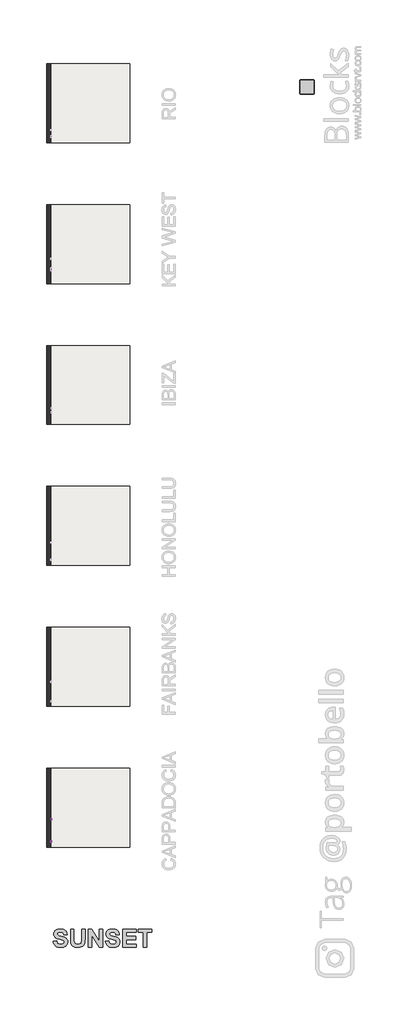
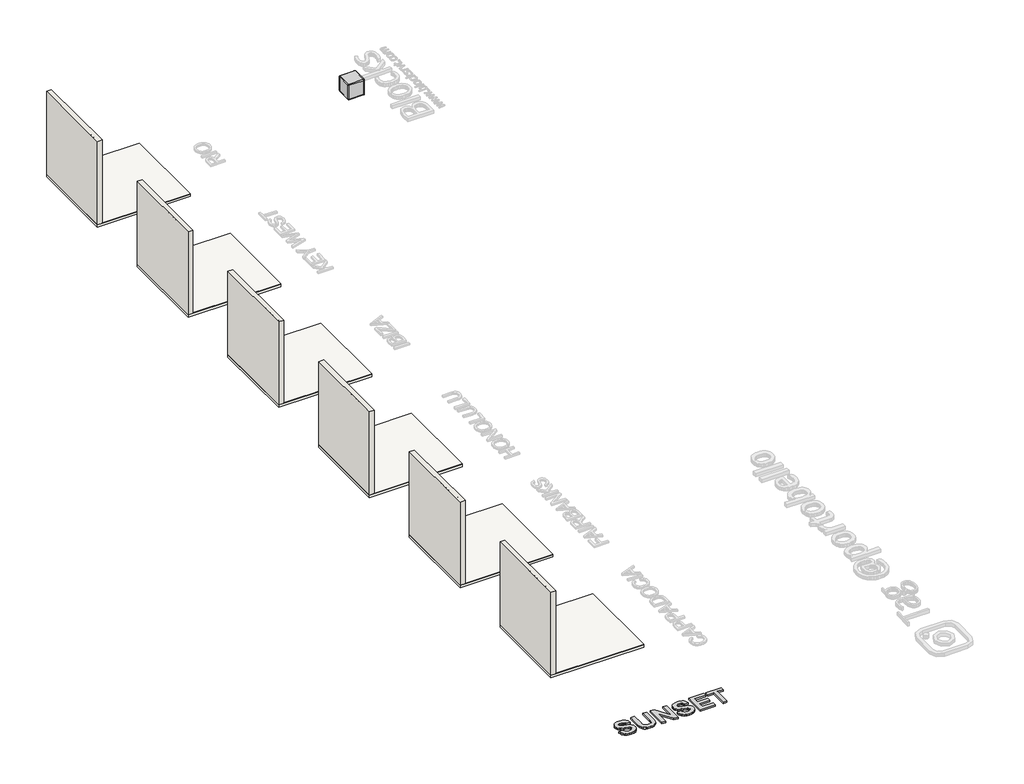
# One storey, part 1 of 7: 12 slabs, 6 walls, 3 proxies, 1 furniture element.
"""IFC4 building model written with IfcOpenShell, lengths in millimetres."""

from ifc_helpers import new_model, si_unit, frame, origin, origin_with_axes, place, context, project, spatial, polyline, outline, extrude, transform, mapped, element, save
from components import branco_22256ad2

model = new_model("IFC4")

# Units and contexts
model_context = context("Model", 3, world=origin())
ifc_project = project(units=[si_unit("LENGTHUNIT", "METRE", prefix="MILLI")], contexts=[model_context])

# Site, building, storey
site = spatial("IfcSite", under=ifc_project)
building = spatial("IfcBuilding", under=site)
storey = spatial("IfcBuildingStorey", under=building, Name="PORTOBELLO - SHOWROOM", Elevation=0.0)

# Proxies
placement = place(None, origin())
element("IfcBuildingElementProxy", 1, Name="10mm Arial", ObjectType="10mm Arial", at=placement, inside=storey, context=model_context, shape_type="SweptSolid", body=[
    extrude(outline(polyline([(-9168.2571098, 2513.7539171), (-9155.700071, 2510.5165555), (-9161.4942124, 2495.8840492), (-9170.5870291, 2485.1940115), (-9182.5309312, 2478.6549091), (-9196.878329, 2476.4752083), (-9211.4433903, 2478.1245459), (-9223.0102134, 2483.0725587), (-9231.8761695, 2491.1475685), (-9238.3386298, 2502.177897), (-9243.5993424, 2529.0332826), (-9242.112486, 2543.6811174), (-9237.6519168, 2556.3301267), (-9230.4506267, 2566.5787059), (-9220.7416077, 2574.0252506), (-9209.2269013, 2578.5593962), (-9196.6085488, 2580.0707781), (-9182.8405652, 2578.1148722), (-9171.4576831, 2572.2471543), (-9162.8155219, 2562.8293753), (-9157.2697008, 2550.2232856), (-9169.8267396, 2547.2311787), (-9180.1274355, 2562.6699597), (-9197.0990582, 2567.5137393), (-9216.7439567, 2562.1426622), (-9227.8417302, 2547.721688), (-9231.0423036, 2529.0578081), (-9227.253119, 2507.4263468), (-9215.4563697, 2493.6062465), (-9198.1291278, 2489.032247), (-9187.6475566, 2490.5896141), (-9178.9134249, 2495.2617155), (-9172.3191401, 2502.9995001), (-9168.2571098, 2513.7539171)])), frame((45289.51561, 0.0, 0.0), z_axis=(1.0, 0.0, 0.0), x_axis=(0.0, 1.0, 0.0)), (0.0, 0.0, 1.0), 20.0),
    extrude(outline(polyline([(-9092.9148771, 2487.4626172), (-9105.0917712, 2478.9522804), (-9118.5439895, 2476.4752083), (-9129.0378234, 2477.9651303), (-9136.7786737, 2482.4348966), (-9141.5519426, 2489.2223194), (-9143.1430322, 2497.6652112), (-9140.7395365, 2507.598025), (-9134.4242289, 2514.8085122), (-9125.6318492, 2518.9287905), (-9114.7670677, 2520.8172514), (-9092.9884535, 2525.1337335), (-9092.9148771, 2527.9296366), (-9096.3729679, 2537.2002629), (-9110.2543818, 2540.8300319), (-9122.9585734, 2538.4142735), (-9129.0163636, 2529.842623), (-9141.5734024, 2531.4122529), (-9136.1410116, 2543.674986), (-9125.2026536, 2550.8609477), (-9108.6357011, 2553.3870707), (-9093.4176492, 2551.1552533), (-9084.8214732, 2545.5511842), (-9080.970975, 2537.0285847), (-9080.3578384, 2526.0411757), (-9080.3578384, 2510.4184537), (-9079.7201762, 2488.6030514), (-9077.2185787, 2478.0448381), (-9089.7756174, 2478.0448381), (-9092.9148771, 2487.4626172)]), holes=[polyline([(-9092.9148771, 2512.5766947), (-9113.1729123, 2508.7261965), (-9123.9763803, 2506.6905828), (-9128.8692108, 2503.3796448), (-9130.5859934, 2498.548128), (-9126.8458598, 2491.7545738), (-9115.8707136, 2489.032247), (-9103.1665221, 2492.0366167), (-9094.9750163, 2499.3084174), (-9092.9884535, 2509.0205021), (-9092.9148771, 2512.5766947)])]), frame((45289.51561, 0.0, 0.0), z_axis=(1.0, 0.0, 0.0), x_axis=(0.0, 1.0, 0.0)), (0.0, 0.0, 1.0), 20.0),
    extrude(outline(polyline([(-9063.0919101, 2449.7915009), (-9063.0919101, 2551.8174409), (-9050.5348713, 2551.8174409), (-9050.5348713, 2539.5056568), (-9041.8528562, 2549.9167172), (-9030.1296833, 2553.3870707), (-9014.2126556, 2548.5310284), (-9003.8138579, 2534.8458182), (-9000.3067162, 2515.4952252), (-9004.267579, 2495.1513509), (-9015.7700228, 2481.2944624), (-9031.6502622, 2476.4752083), (-9042.5763575, 2479.7003071), (-9050.5348713, 2487.8550246), (-9050.5348713, 2449.7915009), (-9063.0919101, 2449.7915009)]), holes=[polyline([(-9050.5348713, 2514.3425283), (-9049.1767736, 2503.0853392), (-9045.1024805, 2495.2126645), (-9039.0906756, 2490.5773514), (-9031.9200423, 2489.032247), (-9024.6329132, 2490.6325337), (-9018.467824, 2495.4333937), (-9014.2647723, 2503.5942427), (-9012.863755, 2515.274496), (-9014.2310497, 2526.4703714), (-9018.332934, 2534.4534107), (-9024.3355419, 2539.2358766), (-9031.4050075, 2540.8300319), (-9038.5020644, 2539.1347091), (-9044.7345985, 2534.0487405), (-9049.0848031, 2525.7315417), (-9050.5348713, 2514.3425283)])]), frame((45289.51561, 0.0, 0.0), z_axis=(1.0, 0.0, 0.0), x_axis=(0.0, 1.0, 0.0)), (0.0, 0.0, 1.0), 20.0),
    extrude(outline(polyline([(-8986.1800476, 2449.7915009), (-8986.1800476, 2551.8174409), (-8973.6230088, 2551.8174409), (-8973.6230088, 2539.5056568), (-8964.9409938, 2549.9167172), (-8953.2178208, 2553.3870707), (-8937.3007932, 2548.5310284), (-8926.9019954, 2534.8458182), (-8923.3948538, 2515.4952252), (-8927.3557166, 2495.1513509), (-8938.8581603, 2481.2944624), (-8954.7383998, 2476.4752083), (-8965.664495, 2479.7003071), (-8973.6230088, 2487.8550246), (-8973.6230088, 2449.7915009), (-8986.1800476, 2449.7915009)]), holes=[polyline([(-8973.6230088, 2514.3425283), (-8972.2649111, 2503.0853392), (-8968.190618, 2495.2126645), (-8962.1788131, 2490.5773514), (-8955.0081799, 2489.032247), (-8947.7210507, 2490.6325337), (-8941.5559616, 2495.4333937), (-8937.3529098, 2503.5942427), (-8935.9518925, 2515.274496), (-8937.3191873, 2526.4703714), (-8941.4210715, 2534.4534107), (-8947.4236794, 2539.2358766), (-8954.4931451, 2540.8300319), (-8961.5902019, 2539.1347091), (-8967.822736, 2534.0487405), (-8972.1729406, 2525.7315417), (-8973.6230088, 2514.3425283)])]), frame((45289.51561, 0.0, 0.0), z_axis=(1.0, 0.0, 0.0), x_axis=(0.0, 1.0, 0.0)), (0.0, 0.0, 1.0), 20.0),
    extrude(outline(polyline([(-8862.1792898, 2487.4626172), (-8874.3561838, 2478.9522804), (-8887.8084021, 2476.4752083), (-8898.302236, 2477.9651303), (-8906.0430863, 2482.4348966), (-8910.8163552, 2489.2223194), (-8912.4074448, 2497.6652112), (-8910.0039491, 2507.598025), (-8903.6886416, 2514.8085122), (-8894.8962619, 2518.9287905), (-8884.0314803, 2520.8172514), (-8862.2528662, 2525.1337335), (-8862.1792898, 2527.9296366), (-8865.6373805, 2537.2002629), (-8879.5187945, 2540.8300319), (-8892.222986, 2538.4142735), (-8898.2807762, 2529.842623), (-8910.837815, 2531.4122529), (-8905.4054242, 2543.674986), (-8894.4670662, 2550.8609477), (-8877.9001137, 2553.3870707), (-8862.6820618, 2551.1552533), (-8854.0858859, 2545.5511842), (-8850.2353877, 2537.0285847), (-8849.622251, 2526.0411757), (-8849.622251, 2510.4184537), (-8848.9845889, 2488.6030514), (-8846.4829913, 2478.0448381), (-8859.0400301, 2478.0448381), (-8862.1792898, 2487.4626172)]), holes=[polyline([(-8862.1792898, 2512.5766947), (-8882.437325, 2508.7261965), (-8893.2407929, 2506.6905828), (-8898.1336234, 2503.3796448), (-8899.8504061, 2498.548128), (-8896.1102725, 2491.7545738), (-8885.1351263, 2489.032247), (-8872.4309347, 2492.0366167), (-8864.2394289, 2499.3084174), (-8862.2528662, 2509.0205021), (-8862.1792898, 2512.5766947)])]), frame((45289.51561, 0.0, 0.0), z_axis=(1.0, 0.0, 0.0), x_axis=(0.0, 1.0, 0.0)), (0.0, 0.0, 1.0), 20.0),
    extrude(outline(polyline([(-8786.8370572, 2478.0448381), (-8786.8370572, 2489.8906383), (-8795.1450589, 2479.8290658), (-8806.6291085, 2476.4752083), (-8822.1782542, 2481.3312506), (-8833.1656631, 2494.8815707), (-8837.0652122, 2514.8575631), (-8833.4722314, 2534.8458182), (-8822.7055517, 2548.6046048), (-8806.6781594, 2553.3870707), (-8795.1021393, 2549.9657682), (-8786.8370572, 2541.0752866), (-8786.8370572, 2578.5011483), (-8774.2800184, 2578.5011483), (-8774.2800184, 2478.0448381), (-8786.8370572, 2478.0448381)]), holes=[polyline([(-8824.5081735, 2514.906614), (-8823.0918278, 2503.5482574), (-8818.8427907, 2495.4701819), (-8812.6685046, 2490.6417308), (-8805.4764116, 2489.032247), (-8798.2873843, 2490.5681544), (-8792.2694479, 2495.1758763), (-8788.1951549, 2502.9412521), (-8786.8370572, 2513.9501208), (-8788.2196803, 2525.9859934), (-8792.3675498, 2534.3307834), (-8798.5387703, 2539.2052198), (-8805.9914464, 2540.8300319), (-8813.2571158, 2539.2695991), (-8819.2106727, 2534.5883008), (-8823.1837983, 2526.5470135), (-8824.5081735, 2514.906614)])]), frame((45289.51561, 0.0, 0.0), z_axis=(1.0, 0.0, 0.0), x_axis=(0.0, 1.0, 0.0)), (0.0, 0.0, 1.0), 20.0),
    extrude(outline(polyline([(-8758.5837199, 2514.9311395), (-8755.8675245, 2532.718234), (-8747.7189383, 2545.2200904), (-8737.6512344, 2551.3453256), (-8725.5969677, 2553.3870707), (-8712.4053325, 2550.9008016), (-8701.868579, 2543.4419941), (-8694.9615945, 2531.5992596), (-8692.6592664, 2515.9612091), (-8696.7304938, 2493.6185092), (-8708.5885568, 2480.9756313), (-8725.5969677, 2476.4752083), (-8738.9480184, 2478.9522804), (-8749.4725092, 2486.3834967), (-8756.3059172, 2498.4745516), (-8758.5837199, 2514.9311395)]), holes=[polyline([(-8746.0266812, 2514.955665), (-8744.5735473, 2503.591177), (-8740.2141456, 2495.4947074), (-8733.6535834, 2490.6478621), (-8725.5969677, 2489.032247), (-8717.5771402, 2490.6570592), (-8711.0288407, 2495.5314956), (-8706.669439, 2503.7352641), (-8705.2163052, 2515.3480724), (-8706.6786361, 2526.3814666), (-8711.0656289, 2534.3675716), (-8717.6231254, 2539.2144169), (-8725.5969677, 2540.8300319), (-8733.6535834, 2539.2205482), (-8740.2141456, 2534.392097), (-8744.5735473, 2526.3140216), (-8746.0266812, 2514.955665)])]), frame((45289.51561, 0.0, 0.0), z_axis=(1.0, 0.0, 0.0), x_axis=(0.0, 1.0, 0.0)), (0.0, 0.0, 1.0), 20.0),
    extrude(outline(polyline([(-8631.4437024, 2504.7285455), (-8618.8866636, 2503.1589156), (-8622.3876739, 2491.9906314), (-8628.9666303, 2483.5508053), (-8638.0042646, 2478.2441075), (-8648.881309, 2476.4752083), (-8662.2384911, 2478.9430833), (-8672.683274, 2486.3467085), (-8679.4247116, 2498.3611213), (-8681.6718575, 2514.6613594), (-8677.833622, 2535.5202685), (-8666.1349745, 2548.9234358), (-8649.0529872, 2553.3870707), (-8638.4426573, 2551.8542291), (-8629.9599117, 2547.2557041), (-8623.8745303, 2539.8367506), (-8620.4562935, 2529.842623), (-8633.0133322, 2528.2729932), (-8638.8381305, 2537.6785095), (-8648.9548854, 2540.8300319), (-8657.069749, 2539.2787962), (-8663.5107496, 2534.625089), (-8667.7138014, 2526.6175242), (-8669.1148187, 2515.0047159), (-8667.7444583, 2503.2355577), (-8663.633377, 2495.2004018), (-8657.3088723, 2490.5742857), (-8649.2982419, 2489.032247), (-8637.4647044, 2492.8827452), (-8631.4437024, 2504.7285455)])), frame((45289.51561, 0.0, 0.0), z_axis=(1.0, 0.0, 0.0), x_axis=(0.0, 1.0, 0.0)), (0.0, 0.0, 1.0), 20.0),
    extrude(outline(polyline([(45309.51561, -8595.3422159), (45309.51561, -8607.8992547), (45289.51561, -8607.8992547), (45289.51561, -8595.3422159), (45309.51561, -8595.3422159)])), frame((0.0, 0.0, 2565.9441095), z_axis=(0.0, 0.0, 1.0), x_axis=(1.0, 0.0, 0.0)), (0.0, 0.0, 1.0), 12.5570388),
    extrude(outline(polyline([(45309.51561, -8595.3422159), (45309.51561, -8607.8992547), (45289.51561, -8607.8992547), (45289.51561, -8595.3422159), (45309.51561, -8595.3422159)])), frame((0.0, 0.0, 2478.0448381), z_axis=(0.0, 0.0, 1.0), x_axis=(1.0, 0.0, 0.0)), (0.0, 0.0, 1.0), 73.7726028),
    extrude(outline(polyline([(-8529.4177624, 2487.4626172), (-8541.5946564, 2478.9522804), (-8555.0468747, 2476.4752083), (-8565.5407086, 2477.9651303), (-8573.281559, 2482.4348966), (-8578.0548278, 2489.2223194), (-8579.6459175, 2497.6652112), (-8577.2424218, 2507.598025), (-8570.9271142, 2514.8085122), (-8562.1347345, 2518.9287905), (-8551.2699529, 2520.8172514), (-8529.4913388, 2525.1337335), (-8529.4177624, 2527.9296366), (-8532.8758531, 2537.2002629), (-8546.7572671, 2540.8300319), (-8559.4614587, 2538.4142735), (-8565.5192489, 2529.842623), (-8578.0762876, 2531.4122529), (-8572.6438968, 2543.674986), (-8561.7055388, 2550.8609477), (-8545.1385863, 2553.3870707), (-8529.9205345, 2551.1552533), (-8521.3243585, 2545.5511842), (-8517.4738603, 2537.0285847), (-8516.8607236, 2526.0411757), (-8516.8607236, 2510.4184537), (-8516.2230615, 2488.6030514), (-8513.7214639, 2478.0448381), (-8526.2785027, 2478.0448381), (-8529.4177624, 2487.4626172)]), holes=[polyline([(-8529.4177624, 2512.5766947), (-8549.6757976, 2508.7261965), (-8560.4792655, 2506.6905828), (-8565.3720961, 2503.3796448), (-8567.0888787, 2498.548128), (-8563.3487451, 2491.7545738), (-8552.3735989, 2489.032247), (-8539.6694073, 2492.0366167), (-8531.4779016, 2499.3084174), (-8529.4913388, 2509.0205021), (-8529.4177624, 2512.5766947)])]), frame((45289.51561, 0.0, 0.0), z_axis=(1.0, 0.0, 0.0), x_axis=(0.0, 1.0, 0.0)), (0.0, 0.0, 1.0), 20.0),
])
element("IfcBuildingElementProxy", 2, Name="10mm Arial Narrow", ObjectType="10mm Arial Narrow", at=placement, inside=storey, context=model_context, shape_type="SweptSolid", body=[
    extrude(outline(polyline([(-8466.7553937, 2478.0448381), (-8466.7553937, 2578.7634419), (-8435.458509, 2578.7634419), (-8419.1628075, 2576.8851211), (-8407.6898214, 2567.4046779), (-8403.400143, 2550.3855691), (-8405.1864514, 2538.3097436), (-8410.5453766, 2528.6833498), (-8420.2891654, 2522.3820914), (-8435.2300646, 2520.2816719), (-8457.0084321, 2520.2816719), (-8457.0084321, 2478.0448381), (-8466.7553937, 2478.0448381)]), holes=[polyline([(-8457.0084321, 2531.6531272), (-8434.0370771, 2531.6531272), (-8418.1728817, 2536.1839414), (-8413.1471046, 2549.8525322), (-8415.6219191, 2560.0183086), (-8421.5995479, 2565.8182584), (-8434.2655215, 2567.3919866), (-8457.0084321, 2567.3919866), (-8457.0084321, 2531.6531272)])]), frame((45289.51561, 0.0, 0.0), z_axis=(1.0, 0.0, 0.0), x_axis=(0.0, 1.0, 0.0)), (0.0, 0.0, 1.0), 20.0),
    extrude(outline(polyline([(-8395.2776749, 2514.5959443), (-8393.323206, 2531.1867199), (-8387.4597994, 2543.1388047), (-8378.6012327, 2550.3633593), (-8367.6612836, 2552.7715441), (-8356.848248, 2550.3633593), (-8347.9642986, 2543.1388047), (-8342.0247438, 2531.3770902), (-8340.0448922, 2515.3574257), (-8341.9898426, 2498.1955391), (-8347.8246936, 2486.0530839), (-8356.6737418, 2478.8285294), (-8367.6612836, 2476.4203445), (-8378.5219117, 2478.834875), (-8387.3963426, 2486.0784667), (-8393.3073418, 2498.0368971), (-8395.2776749, 2514.5959443)]), holes=[polyline([(-8385.5307133, 2514.621327), (-8384.2266764, 2502.0695756), (-8380.3145658, 2493.1983175), (-8374.4733691, 2487.925059), (-8367.3820737, 2486.1673061), (-8360.6620005, 2487.9409232), (-8354.9699272, 2493.2617743), (-8351.0863722, 2502.1488966), (-8349.7918539, 2514.621327), (-8351.0958907, 2527.1350043), (-8355.0080013, 2535.9935711), (-8360.8491981, 2541.2668296), (-8367.9404934, 2543.0245825), (-8374.7081592, 2541.2573111), (-8380.3907139, 2535.955497), (-8384.2457134, 2527.0874118), (-8385.5307133, 2514.621327)])]), frame((45289.51561, 0.0, 0.0), z_axis=(1.0, 0.0, 0.0), x_axis=(0.0, 1.0, 0.0)), (0.0, 0.0, 1.0), 20.0),
    extrude(outline(polyline([(-8268.5671734, 2486.1673061), (-8266.9426798, 2476.4203445), (-8274.3036665, 2476.4203445), (-8282.5784308, 2478.539801), (-8286.8934919, 2484.3397508), (-8288.0610967, 2498.985576), (-8288.0610967, 2541.4000889), (-8296.1835648, 2541.4000889), (-8296.1835648, 2544.6490761), (-8297.8080584, 2539.7755952), (-8305.3721067, 2541.4000889), (-8311.4512664, 2539.0775706), (-8315.3221301, 2532.5922876), (-8317.3019817, 2517.184981), (-8317.3019817, 2478.0448381), (-8327.0489433, 2478.0448381), (-8327.0489433, 2551.1470505), (-8317.3019817, 2551.1470505), (-8317.3019817, 2541.4508543), (-8311.0578344, 2550.5378654), (-8304.6613908, 2552.7715441), (-8296.1835648, 2551.1470505), (-8288.0610967, 2551.1470505), (-8288.0610967, 2567.3919866), (-8278.3141351, 2575.5144546), (-8278.3141351, 2551.1470505), (-8268.5671734, 2551.1470505), (-8268.5671734, 2541.4000889), (-8278.3141351, 2541.4000889), (-8278.3141351, 2496.7518973), (-8277.4511228, 2488.7563428), (-8272.8314691, 2486.1673061), (-8268.5671734, 2486.1673061)])), frame((45289.51561, 0.0, 0.0), z_axis=(1.0, 0.0, 0.0), x_axis=(0.0, 1.0, 0.0)), (0.0, 0.0, 1.0), 20.0),
    extrude(outline(polyline([(-8262.069199, 2514.5959443), (-8260.1147301, 2531.1867199), (-8254.2513235, 2543.1388047), (-8245.3927568, 2550.3633593), (-8234.4528076, 2552.7715441), (-8223.639772, 2550.3633593), (-8214.7558226, 2543.1388047), (-8208.8162679, 2531.3770902), (-8206.8364163, 2515.3574257), (-8208.7813666, 2498.1955391), (-8214.6162177, 2486.0530839), (-8223.4652659, 2478.8285294), (-8234.4528076, 2476.4203445), (-8245.3134358, 2478.834875), (-8254.1878667, 2486.0784667), (-8260.0988659, 2498.0368971), (-8262.069199, 2514.5959443)]), holes=[polyline([(-8252.3222373, 2514.621327), (-8251.0182005, 2502.0695756), (-8247.1060899, 2493.1983175), (-8241.2648931, 2487.925059), (-8234.1735978, 2486.1673061), (-8227.4535246, 2487.9409232), (-8221.7614513, 2493.2617743), (-8217.8778963, 2502.1488966), (-8216.5833779, 2514.621327), (-8217.8874148, 2527.1350043), (-8221.7995254, 2535.9935711), (-8227.6407221, 2541.2668296), (-8234.7320175, 2543.0245825), (-8241.4996832, 2541.2573111), (-8247.182238, 2535.955497), (-8251.0372375, 2527.0874118), (-8252.3222373, 2514.621327)])]), frame((45289.51561, 0.0, 0.0), z_axis=(1.0, 0.0, 0.0), x_axis=(0.0, 1.0, 0.0)), (0.0, 0.0, 1.0), 20.0),
    extrude(outline(polyline([(-8184.0935058, 2478.0448381), (-8193.8404674, 2478.0448381), (-8193.8404674, 2578.7634419), (-8184.0935058, 2578.7634419), (-8184.0935058, 2543.3545577), (-8176.694445, 2550.4363346), (-8167.4932117, 2552.7715441), (-8154.611485, 2548.5707052), (-8145.3341036, 2535.8412748), (-8141.8566719, 2515.154364), (-8143.7889309, 2498.7000205), (-8149.5857079, 2486.4972814), (-8157.9588303, 2478.9395787), (-8167.6201252, 2476.4203445), (-8176.9609635, 2479.0347639), (-8184.0935058, 2486.801874), (-8184.0935058, 2478.0448381)]), holes=[polyline([(-8184.0935058, 2515.154364), (-8182.0121233, 2497.9068107), (-8176.123334, 2489.1751576), (-8167.6708907, 2486.1673061), (-8161.7281631, 2487.9567874), (-8156.4898058, 2493.3252311), (-8151.6036336, 2514.7482406), (-8156.3121268, 2536.1839414), (-8161.5568298, 2541.3144222), (-8167.8739524, 2543.0245825), (-8173.8515812, 2541.2351012), (-8179.1438768, 2535.8666575), (-8184.0935058, 2515.154364)])]), frame((45289.51561, 0.0, 0.0), z_axis=(1.0, 0.0, 0.0), x_axis=(0.0, 1.0, 0.0)), (0.0, 0.0, 1.0), 20.0),
    extrude(outline(polyline([(-8089.8728764, 2500.7877486), (-8080.1259148, 2499.163255), (-8083.8254451, 2489.2766884), (-8089.644432, 2482.1568376), (-8097.3480853, 2477.8544678), (-8106.7016149, 2476.4203445), (-8118.2951689, 2478.834875), (-8127.4392911, 2486.0784667), (-8133.3788459, 2497.8846009), (-8135.3586975, 2513.9867592), (-8133.3693274, 2530.6536829), (-8127.4012171, 2542.8342121), (-8118.3871812, 2550.2872111), (-8107.2600346, 2552.7715441), (-8096.5770854, 2550.3728778), (-8087.8295681, 2543.1768787), (-8081.994717, 2531.4373741), (-8080.0497666, 2515.4081911), (-8080.1259148, 2512.1592039), (-8125.6117358, 2512.1592039), (-8119.6087243, 2492.716046), (-8113.6786881, 2487.8044911), (-8106.5747014, 2486.1673061), (-8096.3962336, 2489.8224168), (-8089.8728764, 2500.7877486)]), holes=[polyline([(-8124.9517853, 2521.9061655), (-8089.8728764, 2521.9061655), (-8094.1371722, 2536.17125), (-8099.9625047, 2541.3112494), (-8107.1838865, 2543.0245825), (-8119.3929712, 2537.3134721), (-8124.9517853, 2521.9061655)])]), frame((45289.51561, 0.0, 0.0), z_axis=(1.0, 0.0, 0.0), x_axis=(0.0, 1.0, 0.0)), (0.0, 0.0, 1.0), 20.0),
    extrude(outline(polyline([(45309.51561, -8057.3830043), (45309.51561, -8067.1299659), (45289.51561, -8067.1299659), (45289.51561, -8057.3830043), (45309.51561, -8057.3830043)])), frame((0.0, 0.0, 2478.0448381), z_axis=(0.0, 0.0, 1.0), x_axis=(1.0, 0.0, 0.0)), (0.0, 0.0, 1.0), 100.7186038),
    extrude(outline(polyline([(45309.51561, -8031.3911065), (45309.51561, -8041.1380682), (45289.51561, -8041.1380682), (45289.51561, -8031.3911065), (45309.51561, -8031.3911065)])), frame((0.0, 0.0, 2478.0448381), z_axis=(0.0, 0.0, 1.0), x_axis=(1.0, 0.0, 0.0)), (0.0, 0.0, 1.0), 100.7186038),
    extrude(outline(polyline([(-8020.0196513, 2514.5959443), (-8018.0651824, 2531.1867199), (-8012.2017758, 2543.1388047), (-8003.343209, 2550.3633593), (-7992.4032599, 2552.7715441), (-7981.5902243, 2550.3633593), (-7972.7062749, 2543.1388047), (-7966.7667201, 2531.3770902), (-7964.7868685, 2515.3574257), (-7966.7318189, 2498.1955391), (-7972.56667, 2486.0530839), (-7981.4157182, 2478.8285294), (-7992.4032599, 2476.4203445), (-8003.2638881, 2478.834875), (-8012.138319, 2486.0784667), (-8018.0493182, 2498.0368971), (-8020.0196513, 2514.5959443)]), holes=[polyline([(-8010.2726896, 2514.621327), (-8008.9686527, 2502.0695756), (-8005.0565422, 2493.1983175), (-7999.2153454, 2487.925059), (-7992.1240501, 2486.1673061), (-7985.4039769, 2487.9409232), (-7979.7119036, 2493.2617743), (-7975.8283485, 2502.1488966), (-7974.5338302, 2514.621327), (-7975.8378671, 2527.1350043), (-7979.7499776, 2535.9935711), (-7985.5911744, 2541.2668296), (-7992.6824697, 2543.0245825), (-7999.4501355, 2541.2573111), (-8005.1326903, 2535.955497), (-8008.9876898, 2527.0874118), (-8010.2726896, 2514.621327)])]), frame((45289.51561, 0.0, 0.0), z_axis=(1.0, 0.0, 0.0), x_axis=(0.0, 1.0, 0.0)), (0.0, 0.0, 1.0), 20.0),
])
element("IfcBuildingElementProxy", 3, Name="600mm Arial", ObjectType="600mm Arial", at=placement, inside=storey, context=model_context, shape_type="SweptSolid", body=[
    extrude(outline(polyline([(45368.1120648, -12610.70537), (45484.7131391, -12600.9886138), (45491.7729698, -12629.0571342), (45501.7174624, -12653.1402662), (45514.5466171, -12673.23801), (45530.2604337, -12689.3503655), (45548.9063575, -12701.7050691), (45570.5318334, -12710.5298575), (45595.1368615, -12715.8247305), (45622.7214419, -12717.5896881), (45651.7103971, -12716.0287444), (45676.8847664, -12711.3459132), (45698.2445498, -12703.5411944), (45715.7897472, -12692.6145882), (45729.4729137, -12679.6003977), (45739.246604, -12665.532926), (45745.1108182, -12650.412173), (45747.0655562, -12634.2381389), (45743.8203115, -12614.4060877), (45734.0845773, -12597.7243911), (45716.2262421, -12583.6237078), (45688.6131948, -12571.5346966), (45587.4982007, -12545.5727387), (45540.5655091, -12532.9048974), (45501.1860773, -12518.7377909), (45469.3599052, -12503.0714194), (45445.0869928, -12485.9057827), (45419.9126234, -12459.3270385), (45401.9309311, -12429.9964786), (45391.1419157, -12397.9141029), (45387.5455772, -12363.0799115), (45389.1966666, -12340.1544399), (45394.1499349, -12317.9880898), (45402.4053821, -12296.5808613), (45413.9630081, -12275.9327544), (45428.6330326, -12256.8693138), (45446.2256751, -12240.2160842), (45466.7409358, -12225.9730656), (45490.1788145, -12214.140258), (45516.3590199, -12204.8410187), (45545.1012606, -12198.1987049), (45610.271848, -12192.8848539), (45664.1837135, -12196.1965217), (45710.9883033, -12206.1315254), (45750.6856172, -12222.6898648), (45783.2756555, -12245.87154), (45808.8627971, -12274.5758246), (45827.5514215, -12307.7019924), (45839.3415285, -12345.2500435), (45844.2331181, -12387.2199777), (45727.6320438, -12387.2199777), (45722.3608934, -12365.5518011), (45714.7459551, -12347.1573364), (45704.7872289, -12332.0365835), (45692.4847148, -12320.1895424), (45677.3260058, -12311.2556303), (45658.7986948, -12304.8742646), (45611.6382668, -12299.769172), (45561.9917157, -12305.1968912), (45541.7231696, -12311.9815403), (45524.4911097, -12321.4800491), (45509.232766, -12337.801163), (45504.1466515, -12358.8288307), (45508.7772931, -12378.6798599), (45522.669218, -12395.4184907), (45538.6344936, -12405.1399914), (45562.9975518, -12415.0228054), (45636.9170154, -12435.2723735), (45715.8087253, -12456.3379973), (45771.0537981, -12478.3904791), (45809.7689985, -12505.0925806), (45839.0710914, -12540.1070633), (45849.8316398, -12560.8405714), (45857.5177457, -12583.8704223), (45862.1294093, -12609.1966159), (45863.6666305, -12636.8191523), (45861.8494832, -12662.5154177), (45856.3980414, -12687.3766494), (45847.312305, -12711.4028473), (45834.5922741, -12734.5940115), (45818.5463418, -12755.9063497), (45799.4829011, -12774.29607), (45777.4019523, -12789.7631721), (45752.3034951, -12802.3076562), (45724.0594279, -12812.0054343), (45692.5416489, -12818.9324187), (45619.6849555, -12824.4740062), (45565.1990043, -12821.0627036), (45517.4312791, -12810.8287959), (45476.3817798, -12793.7722829), (45442.0505064, -12769.8931648), (45414.2002336, -12739.4761121), (45392.5937357, -12702.8057954), (45377.2310128, -12659.8822147), (45368.1120648, -12610.70537)])), origin_with_axes(), (0.0, 0.0, 1.0), 50.0),
    extrude(outline(polyline([(45960.8341924, -12202.6016101), (46077.4352667, -12202.6016101), (46077.4352667, -12532.8194962), (46078.6878173, -12597.6484789), (46082.4454691, -12634.8454362), (46088.2622382, -12652.6041366), (46097.0585595, -12668.5314562), (46108.8344329, -12682.627395), (46123.5898586, -12694.891953), (46141.3248364, -12704.8222121), (46162.0393665, -12711.9152543), (46212.4070831, -12717.5896881), (46262.7178657, -12712.237881), (46282.5641504, -12705.5481221), (46298.8710308, -12696.1824596), (46322.1570852, -12672.3270641), (46333.8665355, -12643.5753343), (46338.3073967, -12602.0703621), (46339.7876838, -12539.955239), (46339.7876838, -12202.6016101), (46456.3887581, -12202.6016101), (46456.3887581, -12523.7100373), (46453.8457008, -12617.7272446), (46446.216529, -12679.3299606), (46431.7552629, -12721.2144937), (46408.715923, -12756.0771521), (46376.7758827, -12784.2215846), (46335.6125151, -12805.9514397), (46282.8345875, -12819.8433646), (46216.0508667, -12824.4740062), (46137.8233882, -12819.4258477), (46106.7658266, -12813.1156496), (46081.0790503, -12804.2813723), (46039.8967047, -12781.052252), (46008.3552032, -12751.7501591), (45986.1888531, -12718.6145023), (45973.131962, -12683.8846901), (45963.9086348, -12618.8279709), (45960.8341924, -12528.7202397), (45960.8341924, -12202.6016101)])), origin_with_axes(), (0.0, 0.0, 1.0), 50.0),
    extrude(outline(polyline([(46572.9898324, -12814.75725), (46572.9898324, -12202.6016101), (46695.2084063, -12202.6016101), (46951.9433238, -12614.6528022), (46951.9433238, -12202.6016101), (47068.5443981, -12202.6016101), (47068.5443981, -12814.75725), (46942.5302162, -12814.75725), (46689.5909067, -12408.7790305), (46689.5909067, -12814.75725), (46572.9898324, -12814.75725)])), origin_with_axes(), (0.0, 0.0, 1.0), 50.0),
    extrude(outline(polyline([(47155.9952038, -12610.70537), (47272.5962781, -12600.9886138), (47279.6561087, -12629.0571342), (47289.6006014, -12653.1402662), (47302.4297561, -12673.23801), (47318.1435727, -12689.3503655), (47336.7894965, -12701.7050691), (47358.4149724, -12710.5298575), (47383.0200005, -12715.8247305), (47410.6045808, -12717.5896881), (47439.5935361, -12716.0287444), (47464.7679054, -12711.3459132), (47486.1276888, -12703.5411944), (47503.6728862, -12692.6145882), (47517.3560526, -12679.6003977), (47527.129743, -12665.532926), (47532.9939571, -12650.412173), (47534.9486952, -12634.2381389), (47531.7034505, -12614.4060877), (47521.9677162, -12597.7243911), (47504.1093811, -12583.6237078), (47476.4963337, -12571.5346966), (47375.3813396, -12545.5727387), (47328.4486481, -12532.9048974), (47289.0692163, -12518.7377909), (47257.2430442, -12503.0714194), (47232.9701317, -12485.9057827), (47207.7957624, -12459.3270385), (47189.8140701, -12429.9964786), (47179.0250546, -12397.9141029), (47175.4287162, -12363.0799115), (47177.0798056, -12340.1544399), (47182.0330739, -12317.9880898), (47190.288521, -12296.5808613), (47201.8461471, -12275.9327544), (47216.5161715, -12256.8693138), (47234.1088141, -12240.2160842), (47254.6240747, -12225.9730656), (47278.0619534, -12214.140258), (47304.2421588, -12204.8410187), (47332.9843995, -12198.1987049), (47398.154987, -12192.8848539), (47452.0668525, -12196.1965217), (47498.8714422, -12206.1315254), (47538.5687562, -12222.6898648), (47571.1587944, -12245.87154), (47596.7459361, -12274.5758246), (47615.4345604, -12307.7019924), (47627.2246674, -12345.2500435), (47632.1162571, -12387.2199777), (47515.5151828, -12387.2199777), (47510.2440324, -12365.5518011), (47502.629094, -12347.1573364), (47492.6703679, -12332.0365835), (47480.3678538, -12320.1895424), (47465.2091448, -12311.2556303), (47446.6818338, -12304.8742646), (47399.5214058, -12299.769172), (47349.8748546, -12305.1968912), (47329.6063085, -12311.9815403), (47312.3742487, -12321.4800491), (47297.115905, -12337.801163), (47292.0297904, -12358.8288307), (47296.6604321, -12378.6798599), (47310.5523569, -12395.4184907), (47326.5176326, -12405.1399914), (47350.8806907, -12415.0228054), (47424.8001543, -12435.2723735), (47503.6918643, -12456.3379973), (47558.936937, -12478.3904791), (47597.6521375, -12505.0925806), (47626.9542304, -12540.1070633), (47637.7147787, -12560.8405714), (47645.4008847, -12583.8704223), (47650.0125483, -12609.1966159), (47651.5497695, -12636.8191523), (47649.7326222, -12662.5154177), (47644.2811804, -12687.3766494), (47635.195444, -12711.4028473), (47622.4754131, -12734.5940115), (47606.4294807, -12755.9063497), (47587.3660401, -12774.29607), (47565.2850912, -12789.7631721), (47540.1866341, -12802.3076562), (47511.9425669, -12812.0054343), (47480.4247879, -12818.9324187), (47407.5680945, -12824.4740062), (47353.0821433, -12821.0627036), (47305.3144181, -12810.8287959), (47264.2649188, -12793.7722829), (47229.9336454, -12769.8931648), (47202.0833726, -12739.4761121), (47180.4768747, -12702.8057954), (47165.1141517, -12659.8822147), (47155.9952038, -12610.70537)])), origin_with_axes(), (0.0, 0.0, 1.0), 50.0),
    extrude(outline(polyline([(47748.7173314, -12814.75725), (47748.7173314, -12202.6016101), (48205.4048723, -12202.6016101), (48205.4048723, -12309.4859281), (47865.3184057, -12309.4859281), (47865.3184057, -12445.5205148), (48185.9713599, -12445.5205148), (48185.9713599, -12552.4048329), (47865.3184057, -12552.4048329), (47865.3184057, -12707.8729319), (48215.1216285, -12707.8729319), (48215.1216285, -12814.75725), (47748.7173314, -12814.75725)])), origin_with_axes(), (0.0, 0.0, 1.0), 50.0),
    extrude(outline(polyline([(48448.3237771, -12814.75725), (48448.3237771, -12309.4859281), (48273.4221656, -12309.4859281), (48273.4221656, -12202.6016101), (48739.8264628, -12202.6016101), (48739.8264628, -12309.4859281), (48564.9248513, -12309.4859281), (48564.9248513, -12814.75725), (48448.3237771, -12814.75725)])), origin_with_axes(), (0.0, 0.0, 1.0), 50.0),
])

# Furniture
branco_shape = branco_22256ad2(model_context)
element("IfcFurniture", 4, ObjectType="Blks_Mob_Blocks Revit_Cubo : Branco", at=placement, inside=storey, context=model_context, shape_type="MappedRepresentation", body=[
    mapped(branco_shape, transform((54058.546113, 16641.53093, 0.0), x_axis=(1.0, 0.0, 0.0), y_axis=(0.0, 1.0, 0.0), z_axis=(0.0, 0.0, 1.0))),
])

# Slabs
element("IfcSlab", 5, ObjectType="PORTOBELLO - SUNSET - CAPPADOCIA - 14,5X14,5 - EXT - BOLD", at=placement, inside=storey, context=model_context, shape_type="SweptSolid", body=[
    extrude(outline(polyline([(47989.51561, -6688.619554), (47989.51561, -9388.619554), (45289.51561, -9388.619554), (45289.51561, -6688.619554), (47989.51561, -6688.619554)])), origin_with_axes(), (0.0, 0.0, 1.0), 15.0),
])
element("IfcSlab", 6, ObjectType="PORTOBELLO - SUNSET - FAIRBANKS - 14,5X14,5 - EXT - BOLD", at=placement, inside=storey, context=model_context, shape_type="SweptSolid", body=[
    extrude(outline(polyline([(47989.51561, -1863.619554), (47989.51561, -4563.619554), (45290.81561, -4563.619554), (45290.81561, -1863.619554), (47989.51561, -1863.619554)])), origin_with_axes(), (0.0, 0.0, 1.0), 15.0),
])
element("IfcSlab", 7, ObjectType="PORTOBELLO - SUNSET - HONOLULU - 14,5X14,5 - EXT - BOLD", at=placement, inside=storey, context=model_context, shape_type="SweptSolid", body=[
    extrude(outline(polyline([(47989.51561, 2961.380446), (47989.51561, 261.380446), (45290.81561, 261.380446), (45290.81561, 2961.380446), (47989.51561, 2961.380446)])), origin_with_axes(), (0.0, 0.0, 1.0), 15.0),
])
element("IfcSlab", 8, ObjectType="PORTOBELLO - SUNSET - IBIZA - 14,5X14,5 - EXT - BOLD", at=placement, inside=storey, context=model_context, shape_type="SweptSolid", body=[
    extrude(outline(polyline([(47989.51561, 7786.380446), (47989.51561, 5086.380446), (45290.81561, 5086.380446), (45290.81561, 7786.380446), (47989.51561, 7786.380446)])), origin_with_axes(), (0.0, 0.0, 1.0), 15.0),
])
element("IfcSlab", 9, ObjectType="PORTOBELLO - SUNSET - KEY WEST - 14,5X14,5 - EXT - BOLD", at=placement, inside=storey, context=model_context, shape_type="SweptSolid", body=[
    extrude(outline(polyline([(47989.51561, 12611.380446), (47989.51561, 9911.380446), (45290.81561, 9911.380446), (45290.81561, 12611.380446), (47989.51561, 12611.380446)])), origin_with_axes(), (0.0, 0.0, 1.0), 15.0),
])
element("IfcSlab", 10, ObjectType="PORTOBELLO - SUNSET - RIO - 14,5X14,5 - EXT - BOLD", at=placement, inside=storey, context=model_context, shape_type="SweptSolid", body=[
    extrude(outline(polyline([(47989.51561, 17436.380446), (47989.51561, 14736.380446), (45290.81561, 14736.380446), (45290.81561, 17436.380446), (47989.51561, 17436.380446)])), origin_with_axes(), (0.0, 0.0, 1.0), 15.0),
])
element("IfcSlab", 11, ObjectType="PORTOBELLO - LAJE", at=placement, inside=storey, context=model_context, shape_type="SweptSolid", body=[
    extrude(outline(polyline([(47989.51561, -6688.619554), (47989.51561, -9388.619554), (45139.51561, -9388.619554), (45139.51561, -6688.619554), (47989.51561, -6688.619554)])), frame((0.0, 0.0, -80.0), z_axis=(0.0, 0.0, 1.0), x_axis=(1.0, 0.0, 0.0)), (0.0, 0.0, 1.0), 80.0),
])
element("IfcSlab", 12, ObjectType="PORTOBELLO - LAJE", at=placement, inside=storey, context=model_context, shape_type="SweptSolid", body=[
    extrude(outline(polyline([(47989.51561, -1863.619554), (47989.51561, -4563.619554), (45140.81561, -4563.619554), (45140.81561, -1863.619554), (47989.51561, -1863.619554)])), frame((0.0, 0.0, -80.0), z_axis=(0.0, 0.0, 1.0), x_axis=(1.0, 0.0, 0.0)), (0.0, 0.0, 1.0), 80.0),
])
element("IfcSlab", 13, ObjectType="PORTOBELLO - LAJE", at=placement, inside=storey, context=model_context, shape_type="SweptSolid", body=[
    extrude(outline(polyline([(47989.51561, 2961.380446), (47989.51561, 261.380446), (45140.81561, 261.380446), (45140.81561, 2961.380446), (47989.51561, 2961.380446)])), frame((0.0, 0.0, -80.0), z_axis=(0.0, 0.0, 1.0), x_axis=(1.0, 0.0, 0.0)), (0.0, 0.0, 1.0), 80.0),
])
element("IfcSlab", 14, ObjectType="PORTOBELLO - LAJE", at=placement, inside=storey, context=model_context, shape_type="SweptSolid", body=[
    extrude(outline(polyline([(47989.51561, 7786.380446), (47989.51561, 5086.380446), (45140.81561, 5086.380446), (45140.81561, 7786.380446), (47989.51561, 7786.380446)])), frame((0.0, 0.0, -80.0), z_axis=(0.0, 0.0, 1.0), x_axis=(1.0, 0.0, 0.0)), (0.0, 0.0, 1.0), 80.0),
])
element("IfcSlab", 15, ObjectType="PORTOBELLO - LAJE", at=placement, inside=storey, context=model_context, shape_type="SweptSolid", body=[
    extrude(outline(polyline([(47989.51561, 12611.380446), (47989.51561, 9911.380446), (45140.81561, 9911.380446), (45140.81561, 12611.380446), (47989.51561, 12611.380446)])), frame((0.0, 0.0, -80.0), z_axis=(0.0, 0.0, 1.0), x_axis=(1.0, 0.0, 0.0)), (0.0, 0.0, 1.0), 80.0),
])
element("IfcSlab", 16, ObjectType="PORTOBELLO - LAJE", at=placement, inside=storey, context=model_context, shape_type="SweptSolid", body=[
    extrude(outline(polyline([(47989.51561, 17436.380446), (47989.51561, 14736.380446), (45140.81561, 14736.380446), (45140.81561, 17436.380446), (47989.51561, 17436.380446)])), frame((0.0, 0.0, -80.0), z_axis=(0.0, 0.0, 1.0), x_axis=(1.0, 0.0, 0.0)), (0.0, 0.0, 1.0), 80.0),
])

# Walls
element("IfcWall", 17, ObjectType="PORTOBELLO - SUNSET - CAPPADOCIA - 14,5X14,5 - EXT - BOLD", at=placement, inside=storey, context=model_context, shape_type="SweptSolid", body=[
    extrude(outline(polyline([(45289.51561, -6688.619554), (45289.51561, -9388.619554), (45139.51561, -9388.619554), (45139.51561, -6688.619554), (45289.51561, -6688.619554)])), origin_with_axes(), (0.0, 0.0, 1.0), 2700.0),
])
element("IfcWall", 18, ObjectType="PORTOBELLO - SUNSET - FAIRBANKS - 14,5X14,5 - EXT - BOLD", at=placement, inside=storey, context=model_context, shape_type="SweptSolid", body=[
    extrude(outline(polyline([(45290.81561, -1863.619554), (45290.81561, -4563.619554), (45140.81561, -4563.619554), (45140.81561, -1863.619554), (45290.81561, -1863.619554)])), origin_with_axes(), (0.0, 0.0, 1.0), 2700.0),
])
element("IfcWall", 19, ObjectType="PORTOBELLO - SUNSET - HONOLULU - 14,5X14,5 - EXT - BOLD", at=placement, inside=storey, context=model_context, shape_type="SweptSolid", body=[
    extrude(outline(polyline([(45290.81561, 2961.380446), (45290.81561, 261.380446), (45140.81561, 261.380446), (45140.81561, 2961.380446), (45290.81561, 2961.380446)])), origin_with_axes(), (0.0, 0.0, 1.0), 2700.0),
])
element("IfcWall", 20, ObjectType="PORTOBELLO - SUNSET - IBIZA - 14,5X14,5 - EXT - BOLD", at=placement, inside=storey, context=model_context, shape_type="SweptSolid", body=[
    extrude(outline(polyline([(45290.81561, 7786.380446), (45290.81561, 5086.380446), (45140.81561, 5086.380446), (45140.81561, 7786.380446), (45290.81561, 7786.380446)])), origin_with_axes(), (0.0, 0.0, 1.0), 2700.0),
])
element("IfcWall", 21, ObjectType="PORTOBELLO - SUNSET - KEY WEST - 14,5X14,5 - EXT - BOLD", at=placement, inside=storey, context=model_context, shape_type="SweptSolid", body=[
    extrude(outline(polyline([(45290.81561, 12611.380446), (45290.81561, 9911.380446), (45140.81561, 9911.380446), (45140.81561, 12611.380446), (45290.81561, 12611.380446)])), origin_with_axes(), (0.0, 0.0, 1.0), 2700.0),
])
element("IfcWall", 22, ObjectType="PORTOBELLO - SUNSET - RIO - 14,5X14,5 - EXT - BOLD", at=placement, inside=storey, context=model_context, shape_type="SweptSolid", body=[
    extrude(outline(polyline([(45290.81561, 17436.380446), (45290.81561, 14736.380446), (45140.81561, 14736.380446), (45140.81561, 17436.380446), (45290.81561, 17436.380446)])), origin_with_axes(), (0.0, 0.0, 1.0), 2700.0),
])

save(model, "model.ifc")
